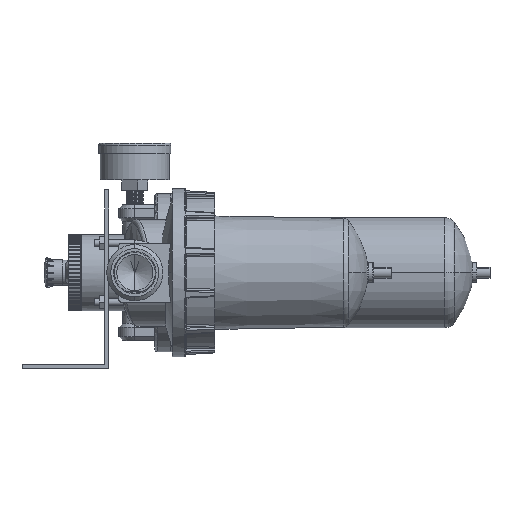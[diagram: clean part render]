
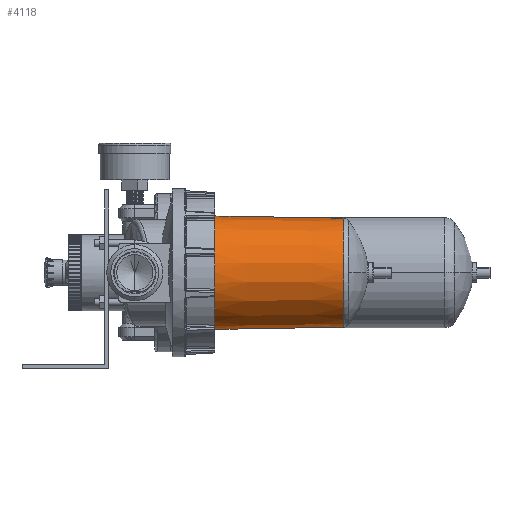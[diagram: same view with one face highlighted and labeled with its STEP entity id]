
A CAD part, left-side view. The second image highlights one B-rep face of the part: STEP entity #4118.
In plain terms, the highlighted conical face has half-angle 1 degrees and reference radius 40.75 mm.
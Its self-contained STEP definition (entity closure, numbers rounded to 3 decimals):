
#1213 = AXIS2_PLACEMENT_3D ( 'NONE', #7437, #26422, #32775 ) ;
#1224 = ORIENTED_EDGE ( 'NONE', *, *, #45833, .T. ) ;
#3968 = CIRCLE ( 'NONE', #81414, 42.469 ) ;
#4118 = ADVANCED_FACE ( 'NONE', ( #4299 ), #19051, .T. ) ;
#4299 = FACE_OUTER_BOUND ( 'NONE', #71470, .T. ) ;
#5381 = ORIENTED_EDGE ( 'NONE', *, *, #22750, .F. ) ;
#7437 = CARTESIAN_POINT ( 'NONE',  ( 0., 2.184, 0. ) ) ;
#10914 = CIRCLE ( 'NONE', #1213, 40.788 ) ;
#12383 = VECTOR ( 'NONE', #43954, 1000. ) ;
#18820 = AXIS2_PLACEMENT_3D ( 'NONE', #57025, #75702, #63335 ) ;
#19051 = CONICAL_SURFACE ( 'NONE', #18820, 40.75, 0.017 ) ;
#20788 = VERTEX_POINT ( 'NONE', #29089 ) ;
#22750 = EDGE_CURVE ( 'NONE', #32919, #20788, #43873, .T. ) ;
#23107 = CARTESIAN_POINT ( 'NONE',  ( 0., 98.5, 42.469 ) ) ;
#26422 = DIRECTION ( 'NONE',  ( 0., 1., 0. ) ) ;
#29089 = CARTESIAN_POINT ( 'NONE',  ( 0., 98.5, -42.469 ) ) ;
#32446 = ORIENTED_EDGE ( 'NONE', *, *, #64292, .T. ) ;
#32775 = DIRECTION ( 'NONE',  ( 0., 0., -1. ) ) ;
#32919 = VERTEX_POINT ( 'NONE', #81097 ) ;
#37983 = CARTESIAN_POINT ( 'NONE',  ( 0., 0., 40.75 ) ) ;
#39418 = VERTEX_POINT ( 'NONE', #23107 ) ;
#39949 = ORIENTED_EDGE ( 'NONE', *, *, #55486, .F. ) ;
#43363 = DIRECTION ( 'NONE',  ( 0., 0., 1. ) ) ;
#43873 = LINE ( 'NONE', #74504, #12383 ) ;
#43894 = DIRECTION ( 'NONE',  ( 0., 1., 0. ) ) ;
#43954 = DIRECTION ( 'NONE',  ( 0., 1., -0.017 ) ) ;
#45833 = EDGE_CURVE ( 'NONE', #54958, #39418, #66886, .T. ) ;
#49949 = CARTESIAN_POINT ( 'NONE',  ( 0., 98.5, 0. ) ) ;
#54958 = VERTEX_POINT ( 'NONE', #62545 ) ;
#55486 = EDGE_CURVE ( 'NONE', #20788, #39418, #3968, .T. ) ;
#57025 = CARTESIAN_POINT ( 'NONE',  ( 0., 0., 0. ) ) ;
#62545 = CARTESIAN_POINT ( 'NONE',  ( 0., 2.184, 40.788 ) ) ;
#63335 = DIRECTION ( 'NONE',  ( 0., 0., 1. ) ) ;
#64292 = EDGE_CURVE ( 'NONE', #32919, #54958, #10914, .T. ) ;
#64900 = VECTOR ( 'NONE', #70136, 1000. ) ;
#66886 = LINE ( 'NONE', #37983, #64900 ) ;
#70136 = DIRECTION ( 'NONE',  ( 0., 1., 0.017 ) ) ;
#71470 = EDGE_LOOP ( 'NONE', ( #5381, #32446, #1224, #39949 ) ) ;
#74504 = CARTESIAN_POINT ( 'NONE',  ( 0., 0., -40.75 ) ) ;
#75702 = DIRECTION ( 'NONE',  ( 0., 1., 0. ) ) ;
#81097 = CARTESIAN_POINT ( 'NONE',  ( 0., 2.184, -40.788 ) ) ;
#81414 = AXIS2_PLACEMENT_3D ( 'NONE', #49949, #43894, #43363 ) ;
